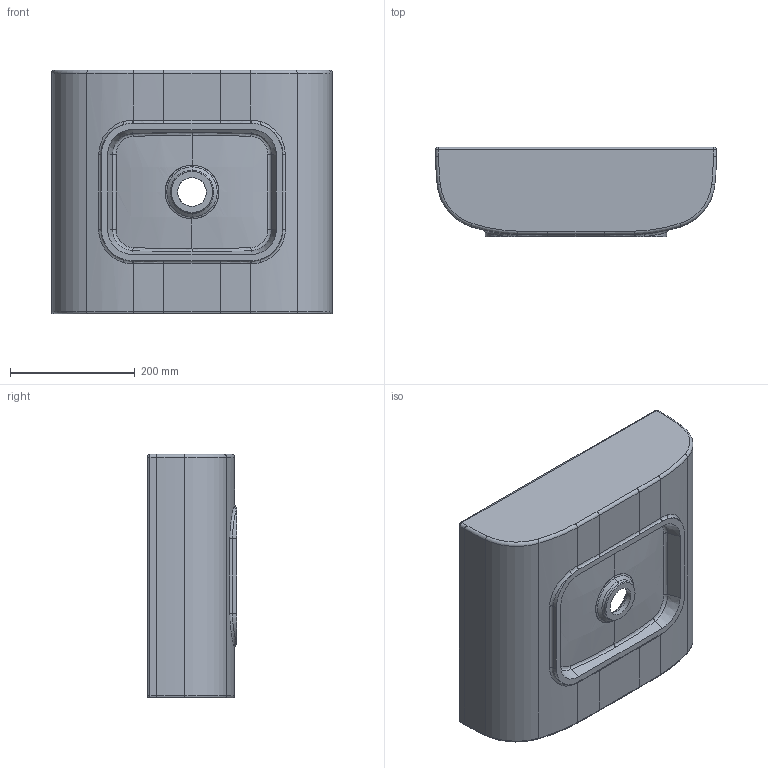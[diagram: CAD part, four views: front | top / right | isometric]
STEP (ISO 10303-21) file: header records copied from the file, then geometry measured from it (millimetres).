
FILE_DESCRIPTION (( 'STEP AP203' ), '1' );
FILE_NAME ('LELP04539000.STEP', '2023-03-30T10:42:54', ( '' ), ( '' ), 'SwSTEP 2.0', 'SolidWorks 2023', '' );
FILE_SCHEMA (( 'CONFIG_CONTROL_DESIGN' ));
Length unit declared in the file: millimetre
Products named in the file (1): LELP04539000
Bounding box: 449.93 x 143 x 390 mm (x, y, z)
Volume: 6247895.9 mm3; surface area: 673728.5 mm2
Topology: 1 solids, 1 shells, 140 faces, 329 edges, 192 vertices
Faces by surface type: bspline 70, cylinder 27, torus 18, plane 17, cone 8
Full cylindrical faces by diameter (mm): 46 x1
Entity records: 14866 total; most frequent: CARTESIAN_POINT 12044, ORIENTED_EDGE 654, DIRECTION 466, EDGE_CURVE 327, AXIS2_PLACEMENT_3D 196, VERTEX_POINT 191, EDGE_LOOP 144, FACE_OUTER_BOUND 141
